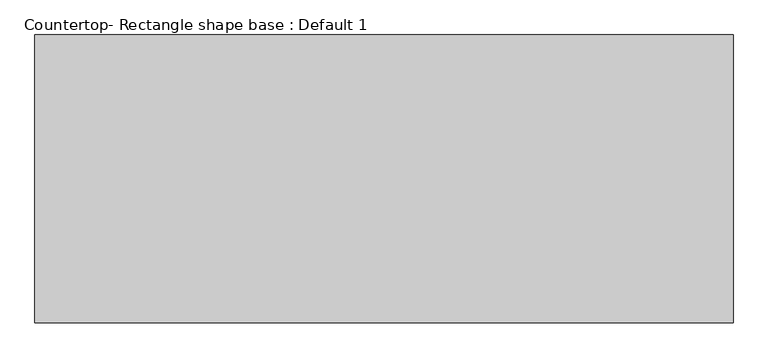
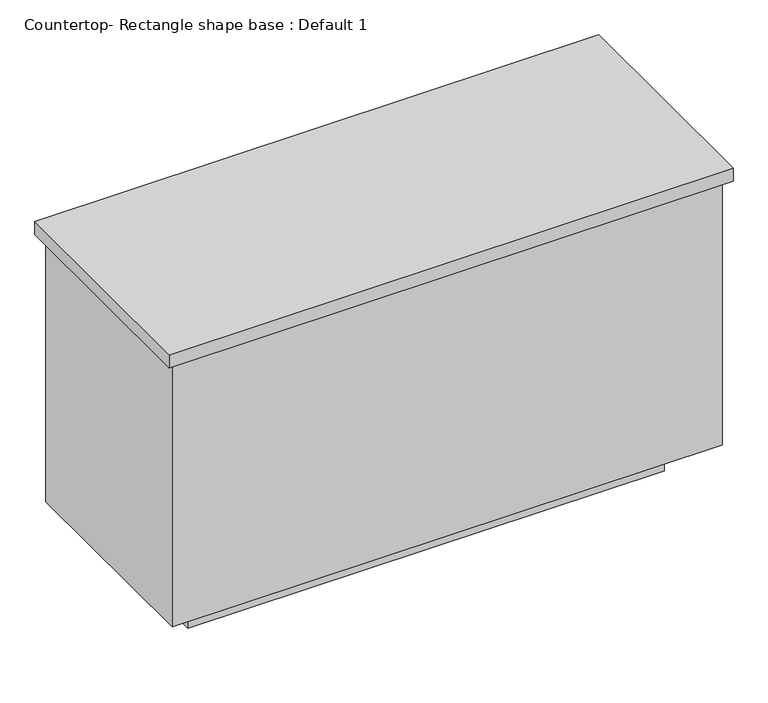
"""IFC4 building model written with IfcOpenShell, lengths in millimetres: proxy geometry, Countertop- Rectangle shape base : Default 1."""

from ifc_helpers import new_model, si_unit, frame, origin, origin_with_axes, place, context, project, spatial, polyline, outline, extrude, source, transform, mapped, element, save


def countertop_rectangle_shape_base_default_1_f55037a1(model_context):
    return source(origin(), model_context, "Body", "SweptSolid", [
        extrude(outline(polyline([(-15.875, 60.325), (-15.875, 701.675), (1539.875, 701.675), (1539.875, 60.325), (-15.875, 60.325)])), frame((0.0, 0.0, 876.3), z_axis=(0.0, 0.0, 1.0), x_axis=(1.0, 0.0, 0.0)), (0.0, 0.0, 1.0), 38.1),
        extrude(outline(polyline([(1520.825, 682.625), (1520.825, 79.375), (3.175, 79.375), (3.175, 682.625), (1520.825, 682.625)])), frame((0.0, 0.0, 101.6), z_axis=(0.0, 0.0, 1.0), x_axis=(1.0, 0.0, 0.0)), (0.0, 0.0, 1.0), 774.7),
        extrude(outline(polyline([(1419.225, 581.025), (1419.225, 180.975), (104.775, 180.975), (104.775, 581.025), (1419.225, 581.025)])), origin_with_axes(), (0.0, 0.0, 1.0), 101.6),
    ])


if __name__ == "__main__":
    model = new_model("IFC4")
    model_context = context("Model", 3, world=origin())
    ifc_project = project(units=[si_unit("LENGTHUNIT", "METRE", prefix="MILLI")], contexts=[model_context])
    site = spatial("IfcSite", under=ifc_project)
    building = spatial("IfcBuilding", under=site)
    placement = place(None, origin())
    countertop_rectangle_shape_base_default_1_shape = countertop_rectangle_shape_base_default_1_f55037a1(model_context)
    element("IfcBuildingElementProxy", 1, Name="Countertop- Rectangle shape base : Default 1", ObjectType="Countertop- Rectangle shape base : Default 1", at=placement, inside=building, context=model_context, shape_type="MappedRepresentation", body=[
        mapped(countertop_rectangle_shape_base_default_1_shape, transform((0.0, 0.0, 0.0), x_axis=(1.0, 0.0, 0.0), y_axis=(0.0, 1.0, 0.0), z_axis=(0.0, 0.0, 1.0))),
    ])
    save(model, "model.ifc")
